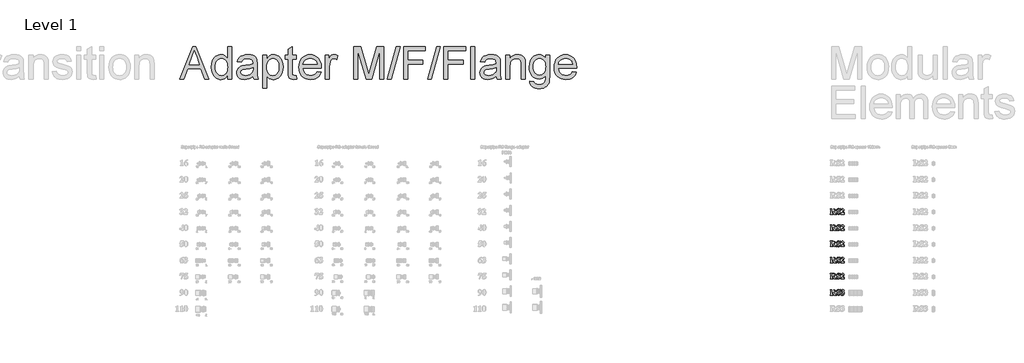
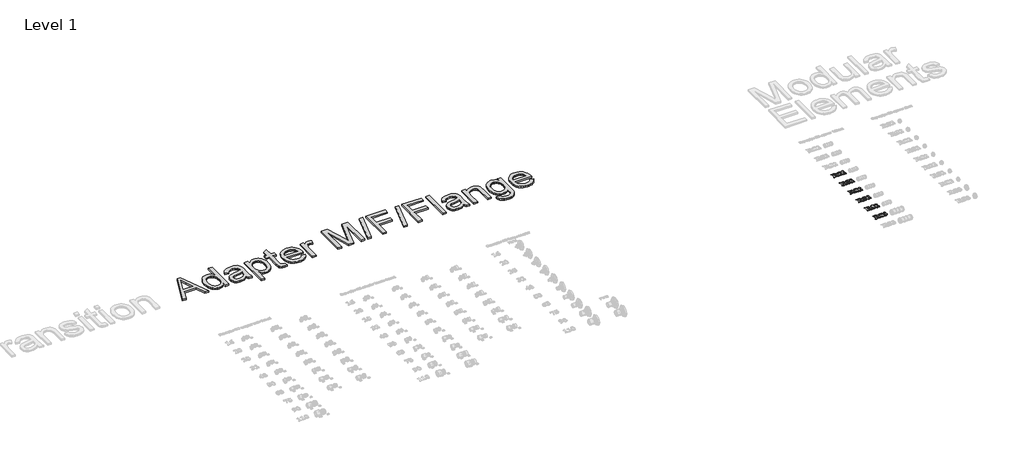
# One storey, part 49 of 57: 7 proxies.
"""IFC4 building model written with IfcOpenShell, lengths in millimetres."""

from ifc_helpers import new_model, si_unit, frame, origin, place, context, project, spatial, polyline, outline, extrude, element, save

model = new_model("IFC4")

# Units and contexts
model_context = context("Model", 3, world=origin())
ifc_project = project(units=[si_unit("LENGTHUNIT", "METRE", prefix="MILLI")], contexts=[model_context])

# Site, building, storey
site = spatial("IfcSite", under=ifc_project)
building = spatial("IfcBuilding", under=site)
storey = spatial("IfcBuildingStorey", under=building, Name="Level 1", Elevation=27.3876384)

# Proxies
placement = place(None, origin())
element("IfcBuildingElementProxy", 1, Name="100mm Arial", ObjectType="100mm Arial", at=placement, inside=storey, context=model_context, shape_type="SweptSolid", body=[
    extrude(outline(polyline([(40860.0811889, 17753.3090579), (40860.0811889, 17723.6453109), (40861.0899744, 17714.034584), (40864.6207237, 17710.8719051), (40874.0405993, 17709.6859006), (40874.0405993, 17706.196048), (40821.6928105, 17706.196048), (40821.6928105, 17709.6859006), (40831.1535827, 17710.8991696), (40834.6434353, 17714.0618485), (40835.6522208, 17723.6453109), (40835.6522208, 17791.6974363), (40834.6434353, 17801.3081631), (40831.112686, 17804.470842), (40821.6928105, 17805.6568466), (40821.6928105, 17809.1466992), (40869.2693164, 17809.1466992), (40896.4383641, 17806.6111032), (40910.4795678, 17797.2457566), (40915.9188303, 17781.2278785), (40914.003501, 17770.9968849), (40908.2575133, 17762.7153011), (40894.5707477, 17755.7628605), (40918.9997158, 17720.946128), (40925.1887512, 17712.3305545), (40931.6231669, 17709.6859006), (40931.6231669, 17706.196048), (40899.88732, 17706.196048), (40866.8427783, 17753.3090579), (40860.0811889, 17753.3090579)]), holes=[polyline([(40860.0811889, 17803.9119203), (40860.0811889, 17758.5438367), (40864.4162402, 17758.5438367), (40880.2432669, 17760.4932466), (40888.4907701, 17767.5138484), (40891.4898622, 17780.7643825), (40890.1130063, 17791.0533131), (40885.9824386, 17798.2545421), (40878.7846176, 17802.4975758), (40868.206002, 17803.9119203), (40860.0811889, 17803.9119203)])]), frame((0.0, 0.0, 27.3876384), z_axis=(0.0, 0.0, 1.0), x_axis=(1.0, 0.0, 0.0)), (0.0, 0.0, 1.0), 2.0),
    extrude(outline(polyline([(41006.6549975, 17810.8916255), (41006.6549975, 17775.9930996), (41003.1651449, 17775.9930996), (40999.1504512, 17788.0678533), (40991.7413306, 17797.5184013), (40982.26011, 17803.6222353), (40972.0291163, 17805.6568466), (40959.0784915, 17801.5535434), (40954.3072087, 17792.1064034), (40956.052135, 17786.0809548), (40963.7679809, 17779.0739851), (40981.7625333, 17770.2402958), (40997.875837, 17761.6792512), (41006.7367909, 17753.6089671), (41011.8897763, 17735.6962081), (41009.3609964, 17723.7816333), (41001.7746567, 17713.6665137), (40990.2894974, 17706.7549697), (40976.0642584, 17704.4511217), (40966.8352342, 17705.5553328), (40955.9158126, 17709.7404295), (40949.890364, 17711.4308268), (40945.6780029, 17709.713165), (40942.0927247, 17704.4511217), (40938.6028721, 17704.4511217), (40938.6028721, 17742.8395001), (40942.0927247, 17742.8395001), (40947.1673247, 17728.5904047), (40955.4659488, 17718.178784), (40965.7616955, 17711.8091214), (40976.8276637, 17709.6859006), (40990.9370286, 17714.2799643), (40996.1854397, 17724.9812701), (40994.072443, 17731.9882397), (40987.6516596, 17738.4226554), (40972.3835545, 17746.3838816), (40951.0354719, 17758.0121795), (40941.8200799, 17768.7134853), (40938.6028721, 17781.718639), (40940.9305765, 17792.948194), (40947.9136897, 17802.3714776), (40958.4411845, 17808.7615885), (40971.4020335, 17810.8916255), (40981.4080952, 17809.6919887), (40990.3644747, 17806.3520907), (40997.7667792, 17803.9119203), (41000.983987, 17805.1115571), (41003.1651449, 17810.8916255), (41006.6549975, 17810.8916255)])), frame((0.0, 0.0, 27.3876384), z_axis=(0.0, 0.0, 1.0), x_axis=(1.0, 0.0, 0.0)), (0.0, 0.0, 1.0), 2.0),
    extrude(outline(polyline([(41078.9876452, 17706.196048), (41017.1245552, 17706.196048), (41017.1245552, 17707.9409743), (41052.8955442, 17752.5456526), (41059.0027862, 17774.9297852), (41053.7816396, 17788.166687), (41041.0354983, 17793.4423626), (41030.0479156, 17790.5114317), (41021.8413091, 17781.718639), (41019.0330683, 17782.7274246), (41024.2917036, 17795.2281856), (41031.7246807, 17803.9937137), (41040.902584, 17809.1671476), (41051.3959982, 17810.8916255), (41065.9279624, 17807.3063472), (41076.2203011, 17797.4911369), (41079.9419017, 17785.80831), (41074.4344781, 17765.6598643), (41062.4312937, 17749.1171451), (41041.5262588, 17727.1351635), (41063.5014243, 17727.1351635), (41074.0391432, 17727.7349819), (41078.0470208, 17729.7798174), (41082.1775885, 17735.8597949), (41085.1766806, 17735.8597949), (41078.9876452, 17706.196048)])), frame((0.0, 0.0, 27.3876384), z_axis=(0.0, 0.0, 1.0), x_axis=(1.0, 0.0, 0.0)), (0.0, 0.0, 1.0), 2.0),
])
element("IfcBuildingElementProxy", 2, Name="100mm Arial", ObjectType="100mm Arial", at=placement, inside=storey, context=model_context, shape_type="SweptSolid", body=[
    extrude(outline(polyline([(40860.0811889, 17453.3090579), (40860.0811889, 17423.6453109), (40861.0899744, 17414.034584), (40864.6207237, 17410.8719051), (40874.0405993, 17409.6859006), (40874.0405993, 17406.196048), (40821.6928105, 17406.196048), (40821.6928105, 17409.6859006), (40831.1535827, 17410.8991696), (40834.6434353, 17414.0618485), (40835.6522208, 17423.6453109), (40835.6522208, 17491.6974363), (40834.6434353, 17501.3081631), (40831.112686, 17504.470842), (40821.6928105, 17505.6568466), (40821.6928105, 17509.1466992), (40869.2693164, 17509.1466992), (40896.4383641, 17506.6111032), (40910.4795678, 17497.2457566), (40915.9188303, 17481.2278785), (40914.003501, 17470.9968849), (40908.2575133, 17462.7153011), (40894.5707477, 17455.7628605), (40918.9997158, 17420.946128), (40925.1887512, 17412.3305545), (40931.6231669, 17409.6859006), (40931.6231669, 17406.196048), (40899.88732, 17406.196048), (40866.8427783, 17453.3090579), (40860.0811889, 17453.3090579)]), holes=[polyline([(40860.0811889, 17503.9119203), (40860.0811889, 17458.5438367), (40864.4162402, 17458.5438367), (40880.2432669, 17460.4932466), (40888.4907701, 17467.5138484), (40891.4898622, 17480.7643825), (40890.1130063, 17491.0533131), (40885.9824386, 17498.2545421), (40878.7846176, 17502.4975758), (40868.206002, 17503.9119203), (40860.0811889, 17503.9119203)])]), frame((0.0, 0.0, 27.3876384), z_axis=(0.0, 0.0, 1.0), x_axis=(1.0, 0.0, 0.0)), (0.0, 0.0, 1.0), 2.0),
    extrude(outline(polyline([(41006.6549975, 17510.8916255), (41006.6549975, 17475.9930996), (41003.1651449, 17475.9930996), (40999.1504512, 17488.0678533), (40991.7413306, 17497.5184013), (40982.26011, 17503.6222353), (40972.0291163, 17505.6568466), (40959.0784915, 17501.5535434), (40954.3072087, 17492.1064034), (40956.052135, 17486.0809548), (40963.7679809, 17479.0739851), (40981.7625333, 17470.2402958), (40997.875837, 17461.6792512), (41006.7367909, 17453.6089671), (41011.8897763, 17435.6962081), (41009.3609964, 17423.7816333), (41001.7746567, 17413.6665137), (40990.2894974, 17406.7549697), (40976.0642584, 17404.4511217), (40966.8352342, 17405.5553328), (40955.9158126, 17409.7404295), (40949.890364, 17411.4308268), (40945.6780029, 17409.713165), (40942.0927247, 17404.4511217), (40938.6028721, 17404.4511217), (40938.6028721, 17442.8395001), (40942.0927247, 17442.8395001), (40947.1673247, 17428.5904047), (40955.4659488, 17418.178784), (40965.7616955, 17411.8091214), (40976.8276637, 17409.6859006), (40990.9370286, 17414.2799643), (40996.1854397, 17424.9812701), (40994.072443, 17431.9882397), (40987.6516596, 17438.4226554), (40972.3835545, 17446.3838816), (40951.0354719, 17458.0121795), (40941.8200799, 17468.7134853), (40938.6028721, 17481.718639), (40940.9305765, 17492.948194), (40947.9136897, 17502.3714776), (40958.4411845, 17508.7615885), (40971.4020335, 17510.8916255), (40981.4080952, 17509.6919887), (40990.3644747, 17506.3520907), (40997.7667792, 17503.9119203), (41000.983987, 17505.1115571), (41003.1651449, 17510.8916255), (41006.6549975, 17510.8916255)])), frame((0.0, 0.0, 27.3876384), z_axis=(0.0, 0.0, 1.0), x_axis=(1.0, 0.0, 0.0)), (0.0, 0.0, 1.0), 2.0),
    extrude(outline(polyline([(41078.9876452, 17406.196048), (41017.1245552, 17406.196048), (41017.1245552, 17407.9409743), (41052.8955442, 17452.5456526), (41059.0027862, 17474.9297852), (41053.7816396, 17488.166687), (41041.0354983, 17493.4423626), (41030.0479156, 17490.5114317), (41021.8413091, 17481.718639), (41019.0330683, 17482.7274246), (41024.2917036, 17495.2281856), (41031.7246807, 17503.9937137), (41040.902584, 17509.1671476), (41051.3959982, 17510.8916255), (41065.9279624, 17507.3063472), (41076.2203011, 17497.4911369), (41079.9419017, 17485.80831), (41074.4344781, 17465.6598643), (41062.4312937, 17449.1171451), (41041.5262588, 17427.1351635), (41063.5014243, 17427.1351635), (41074.0391432, 17427.7349819), (41078.0470208, 17429.7798174), (41082.1775885, 17435.8597949), (41085.1766806, 17435.8597949), (41078.9876452, 17406.196048)])), frame((0.0, 0.0, 27.3876384), z_axis=(0.0, 0.0, 1.0), x_axis=(1.0, 0.0, 0.0)), (0.0, 0.0, 1.0), 2.0),
])
element("IfcBuildingElementProxy", 3, Name="100mm Arial", ObjectType="100mm Arial", at=placement, inside=storey, context=model_context, shape_type="SweptSolid", body=[
    extrude(outline(polyline([(40860.0811889, 17153.3090579), (40860.0811889, 17123.6453109), (40861.0899744, 17114.034584), (40864.6207237, 17110.8719051), (40874.0405993, 17109.6859006), (40874.0405993, 17106.196048), (40821.6928105, 17106.196048), (40821.6928105, 17109.6859006), (40831.1535827, 17110.8991696), (40834.6434353, 17114.0618485), (40835.6522208, 17123.6453109), (40835.6522208, 17191.6974363), (40834.6434353, 17201.3081631), (40831.112686, 17204.470842), (40821.6928105, 17205.6568466), (40821.6928105, 17209.1466992), (40869.2693164, 17209.1466992), (40896.4383641, 17206.6111032), (40910.4795678, 17197.2457566), (40915.9188303, 17181.2278785), (40914.003501, 17170.9968849), (40908.2575133, 17162.7153011), (40894.5707477, 17155.7628605), (40918.9997158, 17120.946128), (40925.1887512, 17112.3305545), (40931.6231669, 17109.6859006), (40931.6231669, 17106.196048), (40899.88732, 17106.196048), (40866.8427783, 17153.3090579), (40860.0811889, 17153.3090579)]), holes=[polyline([(40860.0811889, 17203.9119203), (40860.0811889, 17158.5438367), (40864.4162402, 17158.5438367), (40880.2432669, 17160.4932466), (40888.4907701, 17167.5138484), (40891.4898622, 17180.7643825), (40890.1130063, 17191.0533131), (40885.9824386, 17198.2545421), (40878.7846176, 17202.4975758), (40868.206002, 17203.9119203), (40860.0811889, 17203.9119203)])]), frame((0.0, 0.0, 27.3876384), z_axis=(0.0, 0.0, 1.0), x_axis=(1.0, 0.0, 0.0)), (0.0, 0.0, 1.0), 2.0),
    extrude(outline(polyline([(41006.6549975, 17210.8916255), (41006.6549975, 17175.9930996), (41003.1651449, 17175.9930996), (40999.1504512, 17188.0678533), (40991.7413306, 17197.5184013), (40982.26011, 17203.6222353), (40972.0291163, 17205.6568466), (40959.0784915, 17201.5535434), (40954.3072087, 17192.1064034), (40956.052135, 17186.0809548), (40963.7679809, 17179.0739851), (40981.7625333, 17170.2402958), (40997.875837, 17161.6792512), (41006.7367909, 17153.6089671), (41011.8897763, 17135.6962081), (41009.3609964, 17123.7816333), (41001.7746567, 17113.6665137), (40990.2894974, 17106.7549697), (40976.0642584, 17104.4511217), (40966.8352342, 17105.5553328), (40955.9158126, 17109.7404295), (40949.890364, 17111.4308268), (40945.6780029, 17109.713165), (40942.0927247, 17104.4511217), (40938.6028721, 17104.4511217), (40938.6028721, 17142.8395001), (40942.0927247, 17142.8395001), (40947.1673247, 17128.5904047), (40955.4659488, 17118.178784), (40965.7616955, 17111.8091214), (40976.8276637, 17109.6859006), (40990.9370286, 17114.2799643), (40996.1854397, 17124.9812701), (40994.072443, 17131.9882397), (40987.6516596, 17138.4226554), (40972.3835545, 17146.3838816), (40951.0354719, 17158.0121795), (40941.8200799, 17168.7134853), (40938.6028721, 17181.718639), (40940.9305765, 17192.948194), (40947.9136897, 17202.3714776), (40958.4411845, 17208.7615885), (40971.4020335, 17210.8916255), (40981.4080952, 17209.6919887), (40990.3644747, 17206.3520907), (40997.7667792, 17203.9119203), (41000.983987, 17205.1115571), (41003.1651449, 17210.8916255), (41006.6549975, 17210.8916255)])), frame((0.0, 0.0, 27.3876384), z_axis=(0.0, 0.0, 1.0), x_axis=(1.0, 0.0, 0.0)), (0.0, 0.0, 1.0), 2.0),
    extrude(outline(polyline([(41078.9876452, 17106.196048), (41017.1245552, 17106.196048), (41017.1245552, 17107.9409743), (41052.8955442, 17152.5456526), (41059.0027862, 17174.9297852), (41053.7816396, 17188.166687), (41041.0354983, 17193.4423626), (41030.0479156, 17190.5114317), (41021.8413091, 17181.718639), (41019.0330683, 17182.7274246), (41024.2917036, 17195.2281856), (41031.7246807, 17203.9937137), (41040.902584, 17209.1671476), (41051.3959982, 17210.8916255), (41065.9279624, 17207.3063472), (41076.2203011, 17197.4911369), (41079.9419017, 17185.80831), (41074.4344781, 17165.6598643), (41062.4312937, 17149.1171451), (41041.5262588, 17127.1351635), (41063.5014243, 17127.1351635), (41074.0391432, 17127.7349819), (41078.0470208, 17129.7798174), (41082.1775885, 17135.8597949), (41085.1766806, 17135.8597949), (41078.9876452, 17106.196048)])), frame((0.0, 0.0, 27.3876384), z_axis=(0.0, 0.0, 1.0), x_axis=(1.0, 0.0, 0.0)), (0.0, 0.0, 1.0), 2.0),
])
element("IfcBuildingElementProxy", 4, Name="100mm Arial", ObjectType="100mm Arial", at=placement, inside=storey, context=model_context, shape_type="SweptSolid", body=[
    extrude(outline(polyline([(40860.0811889, 16853.3090579), (40860.0811889, 16823.6453109), (40861.0899744, 16814.034584), (40864.6207237, 16810.8719051), (40874.0405993, 16809.6859006), (40874.0405993, 16806.196048), (40821.6928105, 16806.196048), (40821.6928105, 16809.6859006), (40831.1535827, 16810.8991696), (40834.6434353, 16814.0618485), (40835.6522208, 16823.6453109), (40835.6522208, 16891.6974363), (40834.6434353, 16901.3081631), (40831.112686, 16904.470842), (40821.6928105, 16905.6568466), (40821.6928105, 16909.1466992), (40869.2693164, 16909.1466992), (40896.4383641, 16906.6111032), (40910.4795678, 16897.2457566), (40915.9188303, 16881.2278785), (40914.003501, 16870.9968849), (40908.2575133, 16862.7153011), (40894.5707477, 16855.7628605), (40918.9997158, 16820.946128), (40925.1887512, 16812.3305545), (40931.6231669, 16809.6859006), (40931.6231669, 16806.196048), (40899.88732, 16806.196048), (40866.8427783, 16853.3090579), (40860.0811889, 16853.3090579)]), holes=[polyline([(40860.0811889, 16903.9119203), (40860.0811889, 16858.5438367), (40864.4162402, 16858.5438367), (40880.2432669, 16860.4932466), (40888.4907701, 16867.5138484), (40891.4898622, 16880.7643825), (40890.1130063, 16891.0533131), (40885.9824386, 16898.2545421), (40878.7846176, 16902.4975758), (40868.206002, 16903.9119203), (40860.0811889, 16903.9119203)])]), frame((0.0, 0.0, 27.3876384), z_axis=(0.0, 0.0, 1.0), x_axis=(1.0, 0.0, 0.0)), (0.0, 0.0, 1.0), 2.0),
    extrude(outline(polyline([(41006.6549975, 16910.8916255), (41006.6549975, 16875.9930996), (41003.1651449, 16875.9930996), (40999.1504512, 16888.0678533), (40991.7413306, 16897.5184013), (40982.26011, 16903.6222353), (40972.0291163, 16905.6568466), (40959.0784915, 16901.5535434), (40954.3072087, 16892.1064034), (40956.052135, 16886.0809548), (40963.7679809, 16879.0739851), (40981.7625333, 16870.2402958), (40997.875837, 16861.6792512), (41006.7367909, 16853.6089671), (41011.8897763, 16835.6962081), (41009.3609964, 16823.7816333), (41001.7746567, 16813.6665137), (40990.2894974, 16806.7549697), (40976.0642584, 16804.4511217), (40966.8352342, 16805.5553328), (40955.9158126, 16809.7404295), (40949.890364, 16811.4308268), (40945.6780029, 16809.713165), (40942.0927247, 16804.4511217), (40938.6028721, 16804.4511217), (40938.6028721, 16842.8395001), (40942.0927247, 16842.8395001), (40947.1673247, 16828.5904047), (40955.4659488, 16818.178784), (40965.7616955, 16811.8091214), (40976.8276637, 16809.6859006), (40990.9370286, 16814.2799643), (40996.1854397, 16824.9812701), (40994.072443, 16831.9882397), (40987.6516596, 16838.4226554), (40972.3835545, 16846.3838816), (40951.0354719, 16858.0121795), (40941.8200799, 16868.7134853), (40938.6028721, 16881.718639), (40940.9305765, 16892.948194), (40947.9136897, 16902.3714776), (40958.4411845, 16908.7615885), (40971.4020335, 16910.8916255), (40981.4080952, 16909.6919887), (40990.3644747, 16906.3520907), (40997.7667792, 16903.9119203), (41000.983987, 16905.1115571), (41003.1651449, 16910.8916255), (41006.6549975, 16910.8916255)])), frame((0.0, 0.0, 27.3876384), z_axis=(0.0, 0.0, 1.0), x_axis=(1.0, 0.0, 0.0)), (0.0, 0.0, 1.0), 2.0),
    extrude(outline(polyline([(41078.9876452, 16806.196048), (41017.1245552, 16806.196048), (41017.1245552, 16807.9409743), (41052.8955442, 16852.5456526), (41059.0027862, 16874.9297852), (41053.7816396, 16888.166687), (41041.0354983, 16893.4423626), (41030.0479156, 16890.5114317), (41021.8413091, 16881.718639), (41019.0330683, 16882.7274246), (41024.2917036, 16895.2281856), (41031.7246807, 16903.9937137), (41040.902584, 16909.1671476), (41051.3959982, 16910.8916255), (41065.9279624, 16907.3063472), (41076.2203011, 16897.4911369), (41079.9419017, 16885.80831), (41074.4344781, 16865.6598643), (41062.4312937, 16849.1171451), (41041.5262588, 16827.1351635), (41063.5014243, 16827.1351635), (41074.0391432, 16827.7349819), (41078.0470208, 16829.7798174), (41082.1775885, 16835.8597949), (41085.1766806, 16835.8597949), (41078.9876452, 16806.196048)])), frame((0.0, 0.0, 27.3876384), z_axis=(0.0, 0.0, 1.0), x_axis=(1.0, 0.0, 0.0)), (0.0, 0.0, 1.0), 2.0),
])
element("IfcBuildingElementProxy", 5, Name="100mm Arial", ObjectType="100mm Arial", at=placement, inside=storey, context=model_context, shape_type="SweptSolid", body=[
    extrude(outline(polyline([(40860.0811889, 16553.3090579), (40860.0811889, 16523.6453109), (40861.0899744, 16514.034584), (40864.6207237, 16510.8719051), (40874.0405993, 16509.6859006), (40874.0405993, 16506.196048), (40821.6928105, 16506.196048), (40821.6928105, 16509.6859006), (40831.1535827, 16510.8991696), (40834.6434353, 16514.0618485), (40835.6522208, 16523.6453109), (40835.6522208, 16591.6974363), (40834.6434353, 16601.3081631), (40831.112686, 16604.470842), (40821.6928105, 16605.6568466), (40821.6928105, 16609.1466992), (40869.2693164, 16609.1466992), (40896.4383641, 16606.6111032), (40910.4795678, 16597.2457566), (40915.9188303, 16581.2278785), (40914.003501, 16570.9968849), (40908.2575133, 16562.7153011), (40894.5707477, 16555.7628605), (40918.9997158, 16520.946128), (40925.1887512, 16512.3305545), (40931.6231669, 16509.6859006), (40931.6231669, 16506.196048), (40899.88732, 16506.196048), (40866.8427783, 16553.3090579), (40860.0811889, 16553.3090579)]), holes=[polyline([(40860.0811889, 16603.9119203), (40860.0811889, 16558.5438367), (40864.4162402, 16558.5438367), (40880.2432669, 16560.4932466), (40888.4907701, 16567.5138484), (40891.4898622, 16580.7643825), (40890.1130063, 16591.0533131), (40885.9824386, 16598.2545421), (40878.7846176, 16602.4975758), (40868.206002, 16603.9119203), (40860.0811889, 16603.9119203)])]), frame((0.0, 0.0, 27.3876384), z_axis=(0.0, 0.0, 1.0), x_axis=(1.0, 0.0, 0.0)), (0.0, 0.0, 1.0), 2.0),
    extrude(outline(polyline([(41006.6549975, 16610.8916255), (41006.6549975, 16575.9930996), (41003.1651449, 16575.9930996), (40999.1504512, 16588.0678533), (40991.7413306, 16597.5184013), (40982.26011, 16603.6222353), (40972.0291163, 16605.6568466), (40959.0784915, 16601.5535434), (40954.3072087, 16592.1064034), (40956.052135, 16586.0809548), (40963.7679809, 16579.0739851), (40981.7625333, 16570.2402958), (40997.875837, 16561.6792512), (41006.7367909, 16553.6089671), (41011.8897763, 16535.6962081), (41009.3609964, 16523.7816333), (41001.7746567, 16513.6665137), (40990.2894974, 16506.7549697), (40976.0642584, 16504.4511217), (40966.8352342, 16505.5553328), (40955.9158126, 16509.7404295), (40949.890364, 16511.4308268), (40945.6780029, 16509.713165), (40942.0927247, 16504.4511217), (40938.6028721, 16504.4511217), (40938.6028721, 16542.8395001), (40942.0927247, 16542.8395001), (40947.1673247, 16528.5904047), (40955.4659488, 16518.178784), (40965.7616955, 16511.8091214), (40976.8276637, 16509.6859006), (40990.9370286, 16514.2799643), (40996.1854397, 16524.9812701), (40994.072443, 16531.9882397), (40987.6516596, 16538.4226554), (40972.3835545, 16546.3838816), (40951.0354719, 16558.0121795), (40941.8200799, 16568.7134853), (40938.6028721, 16581.718639), (40940.9305765, 16592.948194), (40947.9136897, 16602.3714776), (40958.4411845, 16608.7615885), (40971.4020335, 16610.8916255), (40981.4080952, 16609.6919887), (40990.3644747, 16606.3520907), (40997.7667792, 16603.9119203), (41000.983987, 16605.1115571), (41003.1651449, 16610.8916255), (41006.6549975, 16610.8916255)])), frame((0.0, 0.0, 27.3876384), z_axis=(0.0, 0.0, 1.0), x_axis=(1.0, 0.0, 0.0)), (0.0, 0.0, 1.0), 2.0),
    extrude(outline(polyline([(41078.9876452, 16506.196048), (41017.1245552, 16506.196048), (41017.1245552, 16507.9409743), (41052.8955442, 16552.5456526), (41059.0027862, 16574.9297852), (41053.7816396, 16588.166687), (41041.0354983, 16593.4423626), (41030.0479156, 16590.5114317), (41021.8413091, 16581.718639), (41019.0330683, 16582.7274246), (41024.2917036, 16595.2281856), (41031.7246807, 16603.9937137), (41040.902584, 16609.1671476), (41051.3959982, 16610.8916255), (41065.9279624, 16607.3063472), (41076.2203011, 16597.4911369), (41079.9419017, 16585.80831), (41074.4344781, 16565.6598643), (41062.4312937, 16549.1171451), (41041.5262588, 16527.1351635), (41063.5014243, 16527.1351635), (41074.0391432, 16527.7349819), (41078.0470208, 16529.7798174), (41082.1775885, 16535.8597949), (41085.1766806, 16535.8597949), (41078.9876452, 16506.196048)])), frame((0.0, 0.0, 27.3876384), z_axis=(0.0, 0.0, 1.0), x_axis=(1.0, 0.0, 0.0)), (0.0, 0.0, 1.0), 2.0),
])
element("IfcBuildingElementProxy", 6, Name="100mm Arial", ObjectType="100mm Arial", at=placement, inside=storey, context=model_context, shape_type="SweptSolid", body=[
    extrude(outline(polyline([(40860.0811889, 16253.3090579), (40860.0811889, 16223.6453109), (40861.0899744, 16214.034584), (40864.6207237, 16210.8719051), (40874.0405993, 16209.6859006), (40874.0405993, 16206.196048), (40821.6928105, 16206.196048), (40821.6928105, 16209.6859006), (40831.1535827, 16210.8991696), (40834.6434353, 16214.0618485), (40835.6522208, 16223.6453109), (40835.6522208, 16291.6974363), (40834.6434353, 16301.3081631), (40831.112686, 16304.470842), (40821.6928105, 16305.6568466), (40821.6928105, 16309.1466992), (40869.2693164, 16309.1466992), (40896.4383641, 16306.6111032), (40910.4795678, 16297.2457566), (40915.9188303, 16281.2278785), (40914.003501, 16270.9968849), (40908.2575133, 16262.7153011), (40894.5707477, 16255.7628605), (40918.9997158, 16220.946128), (40925.1887512, 16212.3305545), (40931.6231669, 16209.6859006), (40931.6231669, 16206.196048), (40899.88732, 16206.196048), (40866.8427783, 16253.3090579), (40860.0811889, 16253.3090579)]), holes=[polyline([(40860.0811889, 16303.9119203), (40860.0811889, 16258.5438367), (40864.4162402, 16258.5438367), (40880.2432669, 16260.4932466), (40888.4907701, 16267.5138484), (40891.4898622, 16280.7643825), (40890.1130063, 16291.0533131), (40885.9824386, 16298.2545421), (40878.7846176, 16302.4975758), (40868.206002, 16303.9119203), (40860.0811889, 16303.9119203)])]), frame((0.0, 0.0, 27.3876384), z_axis=(0.0, 0.0, 1.0), x_axis=(1.0, 0.0, 0.0)), (0.0, 0.0, 1.0), 2.0),
    extrude(outline(polyline([(41006.6549975, 16310.8916255), (41006.6549975, 16275.9930996), (41003.1651449, 16275.9930996), (40999.1504512, 16288.0678533), (40991.7413306, 16297.5184013), (40982.26011, 16303.6222353), (40972.0291163, 16305.6568466), (40959.0784915, 16301.5535434), (40954.3072087, 16292.1064034), (40956.052135, 16286.0809548), (40963.7679809, 16279.0739851), (40981.7625333, 16270.2402958), (40997.875837, 16261.6792512), (41006.7367909, 16253.6089671), (41011.8897763, 16235.6962081), (41009.3609964, 16223.7816333), (41001.7746567, 16213.6665137), (40990.2894974, 16206.7549697), (40976.0642584, 16204.4511217), (40966.8352342, 16205.5553328), (40955.9158126, 16209.7404295), (40949.890364, 16211.4308268), (40945.6780029, 16209.713165), (40942.0927247, 16204.4511217), (40938.6028721, 16204.4511217), (40938.6028721, 16242.8395001), (40942.0927247, 16242.8395001), (40947.1673247, 16228.5904047), (40955.4659488, 16218.178784), (40965.7616955, 16211.8091214), (40976.8276637, 16209.6859006), (40990.9370286, 16214.2799643), (40996.1854397, 16224.9812701), (40994.072443, 16231.9882397), (40987.6516596, 16238.4226554), (40972.3835545, 16246.3838816), (40951.0354719, 16258.0121795), (40941.8200799, 16268.7134853), (40938.6028721, 16281.718639), (40940.9305765, 16292.948194), (40947.9136897, 16302.3714776), (40958.4411845, 16308.7615885), (40971.4020335, 16310.8916255), (40981.4080952, 16309.6919887), (40990.3644747, 16306.3520907), (40997.7667792, 16303.9119203), (41000.983987, 16305.1115571), (41003.1651449, 16310.8916255), (41006.6549975, 16310.8916255)])), frame((0.0, 0.0, 27.3876384), z_axis=(0.0, 0.0, 1.0), x_axis=(1.0, 0.0, 0.0)), (0.0, 0.0, 1.0), 2.0),
    extrude(outline(polyline([(41036.3187444, 16262.0336893), (41036.3187444, 16263.7786156), (41048.7513443, 16268.5907951), (41054.7358961, 16275.379649), (41057.2578599, 16284.6359377), (41052.5547383, 16295.773475), (41040.844647, 16300.4220677), (41030.7840563, 16297.9887135), (41022.3593341, 16290.6886508), (41020.6144078, 16291.6974363), (41035.0236819, 16306.0794459), (41054.613206, 16310.8916255), (41064.6635725, 16309.4397923), (41072.7849775, 16305.0842927), (41078.1526707, 16298.7861993), (41079.9419017, 16291.506585), (41075.9340241, 16281.7322713), (41063.3651019, 16273.4575036), (41079.5874636, 16262.1700117), (41083.7793763, 16254.6109365), (41085.1766806, 16245.3478316), (41082.1844047, 16229.585558), (41073.2075768, 16216.3793288), (41059.2072698, 16207.4331734), (41041.1445562, 16204.4511217), (41029.5435228, 16205.7325519), (41021.5686644, 16209.5768427), (41017.1245552, 16218.8740281), (41019.7010479, 16225.9491589), (41025.6583354, 16228.8800898), (41030.5114116, 16227.7895108), (41039.3723654, 16221.0551859), (41053.6589494, 16214.9206794), (41063.5832177, 16219.3784208), (41067.7274177, 16230.679545), (41065.7268869, 16240.6890148), (41059.7252948, 16249.8873665), (41049.8725957, 16257.3203435), (41036.3187444, 16262.0336893)])), frame((0.0, 0.0, 27.3876384), z_axis=(0.0, 0.0, 1.0), x_axis=(1.0, 0.0, 0.0)), (0.0, 0.0, 1.0), 2.0),
])
element("IfcBuildingElementProxy", 7, Name="600mm Arial", ObjectType="600mm Arial", at=placement, inside=storey, context=model_context, shape_type="SweptSolid", body=[
    extrude(outline(polyline([(28776.5509061, 20213.7679008), (29017.145731, 20816.5057617), (29081.3043509, 20816.5057617), (29321.8991758, 20213.7679008), (29242.289512, 20213.7679008), (29173.2748497, 20402.1234823), (28925.0280794, 20402.1234823), (28856.1605699, 20213.7679008), (28776.5509061, 20213.7679008)]), holes=[polyline([(28952.6928054, 20477.4657149), (29145.7572765, 20477.4657149), (29091.457894, 20625.6485826), (29049.2250409, 20741.1635291), (29011.7010774, 20638.5980288), (28952.6928054, 20477.4657149)])]), frame((0.0, 0.0, 27.3876384), z_axis=(0.0, 0.0, 1.0), x_axis=(1.0, 0.0, 0.0)), (0.0, 0.0, 1.0), 30.0),
    extrude(outline(polyline([(29666.0895704, 20213.7679008), (29666.0895704, 20284.8427023), (29643.5476012, 20249.6271983), (29616.2415601, 20224.4732669), (29584.1714472, 20209.380908), (29547.3372624, 20204.3501217), (29522.4684395, 20206.1711376), (29498.6296862, 20211.6341852), (29475.8210025, 20220.7392646), (29454.0423884, 20233.4863757), (29433.9744256, 20249.4938411), (29416.2976957, 20268.379983), (29401.0121988, 20290.1448015), (29388.1179349, 20314.7882967), (29377.8816184, 20341.8414189), (29370.5699637, 20370.8351186), (29364.72064, 20434.6442507), (29370.1101112, 20497.6624365), (29386.2785249, 20554.5737811), (29398.4002367, 20579.9300477), (29413.207487, 20602.1409231), (29430.7002758, 20621.2064075), (29450.8786033, 20637.1265009), (29473.0296979, 20649.6804739), (29496.4407884, 20658.6475976), (29521.1118747, 20664.0278718), (29547.0429568, 20665.8212965), (29583.9047327, 20660.6893426), (29616.4990775, 20645.2934811), (29644.1270153, 20621.6938512), (29666.0895704, 20591.9505918), (29666.0895704, 20816.5057617), (29741.4318031, 20816.5057617), (29741.4318031, 20213.7679008), (29666.0895704, 20213.7679008)]), holes=[polyline([(29440.0628726, 20434.9385563), (29442.1873911, 20398.4032757), (29448.5609467, 20366.7884167), (29459.1835393, 20340.0939794), (29474.055169, 20318.3199638), (29491.8146723, 20301.4203847), (29511.1008859, 20289.3492567), (29531.9138098, 20282.1065799), (29554.2534439, 20279.6923543), (29576.6988441, 20281.9962153), (29597.3876078, 20288.9077983), (29616.319735, 20300.4271033), (29633.4952257, 20316.5541303), (29647.7552515, 20337.4176379), (29657.9409843, 20363.1463849), (29664.0524239, 20393.7403714), (29666.0895704, 20429.1995972), (29664.0156357, 20468.075527), (29657.7938315, 20501.4148328), (29647.4241577, 20529.2175146), (29632.9066145, 20551.4835724), (29615.3540448, 20568.5440999), (29595.8792917, 20580.730191), (29574.4823551, 20588.0418456), (29551.1632352, 20590.4790639), (29528.3821426, 20588.1384147), (29507.5692187, 20581.1164671), (29488.7244635, 20569.4132211), (29471.847877, 20553.0286768), (29457.9419376, 20531.6041491), (29448.0091237, 20504.7809531), (29442.0494354, 20472.5590888), (29440.0628726, 20434.9385563)])]), frame((0.0, 0.0, 27.3876384), z_axis=(0.0, 0.0, 1.0), x_axis=(1.0, 0.0, 0.0)), (0.0, 0.0, 1.0), 30.0),
    extrude(outline(polyline([(30136.9785243, 20270.2745753), (30100.981271, 20239.4092759), (30063.91716, 20219.2125543), (30024.9400626, 20208.0657299), (29983.2038503, 20204.3501217), (29949.6576109, 20206.5850048), (29920.2408468, 20213.2896542), (29894.9535582, 20224.4640698), (29873.7957449, 20240.1082517), (29857.0893038, 20259.2289184), (29845.1561316, 20280.8327885), (29837.9962283, 20304.9198622), (29835.6095938, 20331.4901393), (29839.2148374, 20362.7233207), (29850.030568, 20391.0870225), (29866.7140165, 20415.3672342), (29887.9224135, 20434.3499451), (29912.8464187, 20448.6973429), (29940.6766916, 20459.0716152), (30005.8653812, 20470.4023806), (30082.899871, 20482.3217573), (30136.5370659, 20496.3012731), (30136.9785243, 20513.0766921), (30131.7913881, 20546.7011064), (30125.307468, 20559.153912), (30116.2299797, 20568.7004498), (30100.5398126, 20578.2285934), (30081.428343, 20585.0344103), (30032.941496, 20590.4790639), (29988.0598926, 20586.8554262), (29956.7163466, 20575.9845133), (29935.3424027, 20555.8797622), (29920.3696055, 20524.5546103), (29845.0273729, 20533.9723894), (29858.1055778, 20575.1751729), (29877.6217177, 20607.5487884), (29905.3968083, 20632.3072467), (29943.2518656, 20650.6645583), (29989.5498147, 20662.0321119), (30042.6535807, 20665.8212965), (30093.5868429, 20662.4735703), (30133.9618919, 20652.4303919), (30164.404127, 20637.328836), (30185.5389476, 20618.8059775), (30199.5552516, 20595.9053233), (30208.6419369, 20567.6703802), (30212.3207569, 20501.7459266), (30212.3207569, 20408.0095943), (30216.1467296, 20277.1171804), (30221.8121124, 20244.7619589), (30231.156315, 20213.7679008), (30155.8140824, 20213.7679008), (30143.747553, 20239.9610989), (30136.9785243, 20270.2745753)]), holes=[polyline([(30136.9785243, 20420.9590405), (30086.3579617, 20408.4142645), (30015.4303131, 20397.8560512), (29950.6095055, 20385.642369), (29933.742116, 20377.2914477), (29921.2525223, 20365.7767412), (29913.5270004, 20351.9811664), (29910.9518264, 20336.78764), (29916.5620269, 20314.3836265), (29933.3926281, 20296.0263149), (29961.0757483, 20283.7758445), (29999.2435053, 20279.6923543), (30039.7105247, 20284.1989088), (30075.4686547, 20297.7185721), (30104.4577559, 20317.6393821), (30124.6176892, 20341.3493767), (30133.5572217, 20365.7767412), (30136.5370659, 20399.6218848), (30136.9785243, 20420.9590405)])]), frame((0.0, 0.0, 27.3876384), z_axis=(0.0, 0.0, 1.0), x_axis=(1.0, 0.0, 0.0)), (0.0, 0.0, 1.0), 30.0),
    extrude(outline(polyline([(30315.9163267, 20044.2478774), (30315.9163267, 20656.4035174), (30391.2585593, 20656.4035174), (30391.2585593, 20582.5328128), (30415.8330766, 20618.9715244), (30443.3506499, 20644.9991756), (30475.4299598, 20660.6157662), (30513.6896873, 20665.8212965), (30539.9656588, 20664.0002806), (30564.6413437, 20658.537233), (30587.7167418, 20649.4321536), (30609.1918533, 20636.6850425), (30628.5976285, 20620.6269934), (30645.465018, 20601.5891001), (30659.7940217, 20579.5713627), (30671.5846397, 20554.5737811), (30687.3667773, 20499.0603881), (30692.6274898, 20438.4702235), (30686.6861956, 20374.035692), (30679.2595778, 20344.3706076), (30668.8623129, 20316.4069775), (30655.6369552, 20290.875967), (30639.7260589, 20268.5087417), (30621.129624, 20249.3053015), (30599.8476506, 20233.2656465), (30576.9240038, 20220.6151044), (30553.4025487, 20211.5790029), (30529.2832854, 20206.157342), (30504.5662139, 20204.3501217), (30469.930124, 20209.18777), (30439.0096423, 20223.7007147), (30412.5405328, 20245.6080875), (30391.2585593, 20272.62902), (30391.2585593, 20044.2478774), (30315.9163267, 20044.2478774)]), holes=[polyline([(30391.2585593, 20431.5540419), (30393.2957059, 20395.244089), (30399.4071455, 20364.0109076), (30409.5928783, 20337.8544978), (30423.8529041, 20316.7748595), (30441.0191977, 20300.5512635), (30459.9237337, 20288.9629806), (30480.5665122, 20282.0100109), (30502.9475331, 20279.6923543), (30525.6504507, 20282.0927844), (30546.6703082, 20289.2940744), (30566.0071056, 20301.2962245), (30583.6608428, 20318.0992346), (30598.3715241, 20339.9422281), (30608.8791536, 20367.0643282), (30615.1837313, 20399.4655349), (30617.2852572, 20437.1458483), (30615.234315, 20473.1431015), (30609.0814887, 20504.3211006), (30598.8267781, 20530.6798456), (30584.4701832, 20552.2193364), (30567.2625029, 20568.9579671), (30548.4545359, 20580.914132), (30528.0462822, 20588.0878309), (30506.0377418, 20590.4790639), (30484.0981793, 20587.9360796), (30463.4554009, 20580.3071267), (30444.1094065, 20567.5922052), (30426.0601961, 20549.7913152), (30410.83448, 20527.1435799), (30399.9589685, 20499.8881226), (30393.4336616, 20468.0249432), (30391.2585593, 20431.5540419)])]), frame((0.0, 0.0, 27.3876384), z_axis=(0.0, 0.0, 1.0), x_axis=(1.0, 0.0, 0.0)), (0.0, 0.0, 1.0), 30.0),
    extrude(outline(polyline([(30937.4897458, 20276.6021456), (30946.9075249, 20211.5606088), (30890.5480032, 20204.3501217), (30854.3852031, 20207.4771187), (30827.4194528, 20216.8581096), (30808.3631655, 20231.315872), (30795.928754, 20249.6731835), (30789.0861489, 20281.2006705), (30786.8052805, 20335.1689592), (30786.8052805, 20581.0612848), (30730.2986061, 20581.0612848), (30730.2986061, 20656.4035174), (30786.8052805, 20656.4035174), (30786.8052805, 20763.9722128), (30862.1475132, 20808.265205), (30862.1475132, 20656.4035174), (30937.4897458, 20656.4035174), (30937.4897458, 20581.0612848), (30862.1475132, 20581.0612848), (30862.1475132, 20337.3762512), (30866.1206387, 20298.5279125), (30878.9965085, 20284.7691259), (30889.8674215, 20280.9615472), (30904.6746718, 20279.6923543), (30937.4897458, 20276.6021456)])), frame((0.0, 0.0, 27.3876384), z_axis=(0.0, 0.0, 1.0), x_axis=(1.0, 0.0, 0.0)), (0.0, 0.0, 1.0), 30.0),
    extrude(outline(polyline([(31322.7357711, 20345.6168079), (31396.6064758, 20336.1990288), (31385.2803088, 20306.6121193), (31369.9902134, 20280.5384829), (31350.7361895, 20257.9781196), (31327.5182371, 20238.9310293), (31300.5754794, 20223.8018822), (31270.1470399, 20212.9953486), (31236.2329185, 20206.5114285), (31198.8331151, 20204.3501217), (31152.0845106, 20208.0795255), (31110.4310717, 20219.2677366), (31073.8727984, 20237.9147553), (31042.4096908, 20264.0205813), (31017.1086066, 20296.8586479), (30999.0364036, 20335.7023881), (30988.1930818, 20380.5518018), (30984.5786412, 20431.4068892), (30988.22987, 20483.9864233), (30999.1835564, 20530.3303577), (31017.4397004, 20570.4386922), (31042.998302, 20604.3114269), (31074.3786362, 20631.2219948), (31110.0999779, 20650.4438291), (31150.1623272, 20661.9769296), (31194.565684, 20665.8212965), (31237.5388996, 20661.9861267), (31276.4010338, 20650.4806173), (31311.1520868, 20631.3047683), (31341.7920585, 20604.4585797), (31366.8034356, 20570.6594214), (31384.668705, 20530.6246633), (31395.3878666, 20484.3543053), (31398.9609205, 20431.8483475), (31398.5194621, 20411.5412614), (31059.9208738, 20411.5412614), (31064.2848739, 20381.4761054), (31072.9622905, 20355.1449516), (31085.9531235, 20332.5478), (31103.2573728, 20313.6846507), (31123.9185454, 20298.813021), (31146.9801479, 20288.1904284), (31172.4421805, 20281.8168729), (31200.3046431, 20279.6923543), (31240.4037806, 20283.6286917), (31274.1753478, 20295.4377037), (31301.6193446, 20315.8551545), (31322.7357711, 20345.6168079)]), holes=[polyline([(31059.9208738, 20486.883494), (31323.6186879, 20486.883494), (31313.4283566, 20526.6883259), (31304.6635681, 20542.3417048), (31293.4523643, 20555.1623923), (31272.9061549, 20570.6134361), (31249.5272541, 20581.649896), (31223.3156619, 20588.2717719), (31194.2713784, 20590.4790639), (31167.7792762, 20588.7178288), (31143.485269, 20583.4341237), (31121.3893566, 20574.6279484), (31101.4915392, 20562.299303), (31084.7942952, 20547.0184047), (31072.3001029, 20529.3554704), (31064.0089624, 20509.3105002), (31059.9208738, 20486.883494)])]), frame((0.0, 0.0, 27.3876384), z_axis=(0.0, 0.0, 1.0), x_axis=(1.0, 0.0, 0.0)), (0.0, 0.0, 1.0), 30.0),
    extrude(outline(polyline([(31474.3031531, 20213.7679008), (31474.3031531, 20656.4035174), (31540.2276067, 20656.4035174), (31540.2276067, 20590.9205223), (31564.5813948, 20628.8859442), (31587.0221965, 20651.2531695), (31609.5365746, 20662.1792647), (31634.1110918, 20665.8212965), (31671.6350553, 20660.008761), (31709.74763, 20642.5711544), (31684.5845016, 20575.0280201), (31658.0969979, 20586.6163029), (31631.6094943, 20590.4790639), (31609.1135103, 20586.7634557), (31589.0087592, 20575.6166313), (31572.7667691, 20557.8847191), (31561.859068, 20534.4138478), (31552.6988063, 20492.3281476), (31549.6453857, 20446.4164746), (31549.6453857, 20213.7679008), (31474.3031531, 20213.7679008)])), frame((0.0, 0.0, 27.3876384), z_axis=(0.0, 0.0, 1.0), x_axis=(1.0, 0.0, 0.0)), (0.0, 0.0, 1.0), 30.0),
    extrude(outline(polyline([(32001.6987814, 20213.7679008), (32001.6987814, 20816.5057617), (32131.3403965, 20816.5057617), (32254.6544413, 20391.6756337), (32279.5232642, 20302.9424964), (32306.4522262, 20399.0332736), (32427.7061318, 20816.5057617), (32557.3477469, 20816.5057617), (32557.3477469, 20213.7679008), (32482.0055143, 20213.7679008), (32482.0055143, 20741.1635291), (32330.5852851, 20213.7679008), (32228.4612432, 20213.7679008), (32077.041014, 20741.1635291), (32077.041014, 20213.7679008), (32001.6987814, 20213.7679008)])), frame((0.0, 0.0, 27.3876384), z_axis=(0.0, 0.0, 1.0), x_axis=(1.0, 0.0, 0.0)), (0.0, 0.0, 1.0), 30.0),
    extrude(outline(polyline([(32623.2722005, 20213.7679008), (32792.7922238, 20816.5057617), (32860.7768166, 20816.5057617), (32691.2567932, 20213.7679008), (32623.2722005, 20213.7679008)])), frame((0.0, 0.0, 27.3876384), z_axis=(0.0, 0.0, 1.0), x_axis=(1.0, 0.0, 0.0)), (0.0, 0.0, 1.0), 30.0),
    extrude(outline(polyline([(32924.6411309, 20213.7679008), (32924.6411309, 20816.5057617), (33329.6056312, 20816.5057617), (33329.6056312, 20741.1635291), (32999.9833635, 20741.1635291), (32999.9833635, 20562.2257266), (33282.5167358, 20562.2257266), (33282.5167358, 20486.883494), (32999.9833635, 20486.883494), (32999.9833635, 20213.7679008), (32924.6411309, 20213.7679008)])), frame((0.0, 0.0, 27.3876384), z_axis=(0.0, 0.0, 1.0), x_axis=(1.0, 0.0, 0.0)), (0.0, 0.0, 1.0), 30.0),
    extrude(outline(polyline([(33367.2767475, 20213.7679008), (33536.7967709, 20816.5057617), (33604.7813636, 20816.5057617), (33435.2613402, 20213.7679008), (33367.2767475, 20213.7679008)])), frame((0.0, 0.0, 27.3876384), z_axis=(0.0, 0.0, 1.0), x_axis=(1.0, 0.0, 0.0)), (0.0, 0.0, 1.0), 30.0),
    extrude(outline(polyline([(33668.645678, 20213.7679008), (33668.645678, 20816.5057617), (34073.6101783, 20816.5057617), (34073.6101783, 20741.1635291), (33743.9879106, 20741.1635291), (33743.9879106, 20562.2257266), (34026.5212829, 20562.2257266), (34026.5212829, 20486.883494), (33743.9879106, 20486.883494), (33743.9879106, 20213.7679008), (33668.645678, 20213.7679008)])), frame((0.0, 0.0, 27.3876384), z_axis=(0.0, 0.0, 1.0), x_axis=(1.0, 0.0, 0.0)), (0.0, 0.0, 1.0), 30.0),
    extrude(outline(polyline([(34167.787969, 20213.7679008), (34167.787969, 20816.5057617), (34243.1302016, 20816.5057617), (34243.1302016, 20213.7679008), (34167.787969, 20213.7679008)])), frame((0.0, 0.0, 27.3876384), z_axis=(0.0, 0.0, 1.0), x_axis=(1.0, 0.0, 0.0)), (0.0, 0.0, 1.0), 30.0),
    extrude(outline(polyline([(34638.6769228, 20270.2745753), (34602.6796696, 20239.4092759), (34565.6155586, 20219.2125543), (34526.6384612, 20208.0657299), (34484.9022489, 20204.3501217), (34451.3560094, 20206.5850048), (34421.9392454, 20213.2896542), (34396.6519567, 20224.4640698), (34375.4941435, 20240.1082517), (34358.7877024, 20259.2289184), (34346.8545302, 20280.8327885), (34339.6946268, 20304.9198622), (34337.3079924, 20331.4901393), (34340.913236, 20362.7233207), (34351.7289666, 20391.0870225), (34368.4124151, 20415.3672342), (34389.6208121, 20434.3499451), (34414.5448173, 20448.6973429), (34442.3750902, 20459.0716152), (34507.5637798, 20470.4023806), (34584.5982696, 20482.3217573), (34638.2354645, 20496.3012731), (34638.6769228, 20513.0766921), (34633.4897867, 20546.7011064), (34627.0058666, 20559.153912), (34617.9283783, 20568.7004498), (34602.2382112, 20578.2285934), (34583.1267416, 20585.0344103), (34534.6398946, 20590.4790639), (34489.7582912, 20586.8554262), (34458.4147452, 20575.9845133), (34437.0408013, 20555.8797622), (34422.0680041, 20524.5546103), (34346.7257715, 20533.9723894), (34359.8039764, 20575.1751729), (34379.3201162, 20607.5487884), (34407.0952069, 20632.3072467), (34444.9502642, 20650.6645583), (34491.2482133, 20662.0321119), (34544.3519793, 20665.8212965), (34595.2852415, 20662.4735703), (34635.6602905, 20652.4303919), (34666.1025256, 20637.328836), (34687.2373462, 20618.8059775), (34701.2536502, 20595.9053233), (34710.3403355, 20567.6703802), (34714.0191555, 20501.7459266), (34714.0191555, 20408.0095943), (34717.8451282, 20277.1171804), (34723.5105109, 20244.7619589), (34732.8547136, 20213.7679008), (34657.512481, 20213.7679008), (34645.4459516, 20239.9610989), (34638.6769228, 20270.2745753)]), holes=[polyline([(34638.6769228, 20420.9590405), (34588.0563603, 20408.4142645), (34517.1287116, 20397.8560512), (34452.3079041, 20385.642369), (34435.4405146, 20377.2914477), (34422.9509209, 20365.7767412), (34415.225399, 20351.9811664), (34412.650225, 20336.78764), (34418.2604254, 20314.3836265), (34435.0910267, 20296.0263149), (34462.7741469, 20283.7758445), (34500.9419039, 20279.6923543), (34541.4089233, 20284.1989088), (34577.1670533, 20297.7185721), (34606.1561545, 20317.6393821), (34626.3160878, 20341.3493767), (34635.2556203, 20365.7767412), (34638.2354645, 20399.6218848), (34638.6769228, 20420.9590405)])]), frame((0.0, 0.0, 27.3876384), z_axis=(0.0, 0.0, 1.0), x_axis=(1.0, 0.0, 0.0)), (0.0, 0.0, 1.0), 30.0),
    extrude(outline(polyline([(34817.6147253, 20213.7679008), (34817.6147253, 20656.4035174), (34892.9569579, 20656.4035174), (34892.9569579, 20594.5993422), (34919.1317619, 20625.7589472), (34950.5672784, 20648.0158079), (34987.2635074, 20661.3699243), (35029.2204489, 20665.8212965), (35066.3581363, 20662.234447), (35100.3688268, 20651.4738987), (35128.7325286, 20634.8824207), (35148.9292502, 20613.8027824), (35162.6328545, 20588.290166), (35171.5172047, 20558.3997539), (35175.4903302, 20485.5591188), (35175.4903302, 20213.7679008), (35100.1480976, 20213.7679008), (35100.1480976, 20475.4055758), (35097.9775938, 20514.3642791), (35091.4660825, 20542.0657933), (35079.4547354, 20561.9130269), (35060.7847241, 20577.3088884), (35036.8540003, 20587.18652), (35009.0605156, 20590.4790639), (34986.182854, 20588.6304568), (34964.9330703, 20583.0846358), (34945.3111644, 20573.8416006), (34927.3171363, 20560.9013515), (34912.2845582, 20542.7923602), (34901.5470025, 20518.043099), (34895.1044691, 20486.6535678), (34892.9569579, 20448.6237665), (34892.9569579, 20213.7679008), (34817.6147253, 20213.7679008)])), frame((0.0, 0.0, 27.3876384), z_axis=(0.0, 0.0, 1.0), x_axis=(1.0, 0.0, 0.0)), (0.0, 0.0, 1.0), 30.0),
    extrude(outline(polyline([(35260.2503419, 20176.0967845), (35335.5925745, 20166.6790054), (35343.9067076, 20143.1345577), (35360.019939, 20126.9477499), (35391.6945788, 20114.3661857), (35433.1548796, 20110.172331), (35477.3742955, 20114.9180087), (35495.2349663, 20120.8501059), (35510.2629458, 20129.1550419), (35533.0716295, 20151.9637256), (35547.0511453, 20182.4243548), (35551.1346355, 20214.8347586), (35552.2014933, 20270.2745753), (35527.1303353, 20245.5529052), (35499.1529096, 20227.8945694), (35468.2692161, 20217.299568), (35434.4792548, 20213.7679008), (35393.1707053, 20217.8789821), (35356.8009715, 20230.212226), (35325.3700536, 20250.7676325), (35298.8779514, 20279.5452015), (35277.8580939, 20314.0709268), (35262.84391, 20351.8708018), (35253.8353996, 20392.9448266), (35250.8325628, 20437.2930011), (35256.2220341, 20498.122289), (35272.3904477, 20554.0587463), (35284.3742037, 20579.2816556), (35298.7675868, 20601.4603414), (35315.5705969, 20620.5948037), (35334.7832341, 20636.6850425), (35356.0973972, 20649.4321536), (35379.204985, 20658.537233), (35404.1059976, 20664.0002806), (35430.8004349, 20665.8212965), (35466.034333, 20661.7010181), (35498.0124754, 20649.3401831), (35526.7348622, 20628.7387914), (35552.2014933, 20599.8968429), (35552.2014933, 20656.4035174), (35627.5437259, 20656.4035174), (35627.5437259, 20274.2477008), (35622.393378, 20186.0112043), (35615.955443, 20153.1915318), (35606.9423342, 20127.9042431), (35595.1379206, 20107.509785), (35580.3260718, 20089.3686041), (35562.5067877, 20073.4807005), (35541.6800682, 20059.846074), (35518.0574456, 20048.9015847), (35491.850452, 20041.0840923), (35463.0590873, 20036.3935968), (35431.6833517, 20034.8300984), (35394.770992, 20037.0327918), (35361.5834375, 20043.6408721), (35332.1206882, 20054.6543394), (35306.3827441, 20070.0731935), (35285.5928128, 20089.9158286), (35270.9741021, 20114.2006388), (35262.5266117, 20142.9276241), (35260.2503419, 20176.0967845)]), holes=[polyline([(35326.1747954, 20442.443349), (35328.1843508, 20405.1906985), (35334.213017, 20373.3367162), (35344.260794, 20346.8814022), (35358.3276818, 20325.8247565), (35375.4295961, 20309.7621089), (35394.5824524, 20298.2887892), (35415.7862509, 20291.4047974), (35439.0409916, 20289.1101334), (35462.0658059, 20291.3910018), (35483.1684369, 20298.2336069), (35502.3488844, 20309.6379487), (35519.6071485, 20325.6040273), (35533.8671743, 20346.4537394), (35544.0529071, 20372.5089817), (35550.1643467, 20403.7697543), (35552.2014933, 20440.236057), (35550.1045659, 20475.1802481), (35543.8137838, 20505.5535053), (35533.3291469, 20531.3558287), (35518.6506553, 20552.5872184), (35501.0199107, 20569.1649008), (35481.6785148, 20581.0061025), (35460.6264676, 20588.1108235), (35437.8637692, 20590.4790639), (35415.4827483, 20588.1476117), (35394.8399698, 20581.1532553), (35375.9354338, 20569.4959946), (35358.7691402, 20553.1758296), (35344.5091144, 20532.2663367), (35334.3233816, 20506.8410923), (35328.211942, 20476.9000964), (35326.1747954, 20442.443349)])]), frame((0.0, 0.0, 27.3876384), z_axis=(0.0, 0.0, 1.0), x_axis=(1.0, 0.0, 0.0)), (0.0, 0.0, 1.0), 30.0),
    extrude(outline(polyline([(36050.4608675, 20345.6168079), (36124.3315722, 20336.1990288), (36113.0054052, 20306.6121193), (36097.7153098, 20280.5384829), (36078.4612859, 20257.9781196), (36055.2433335, 20238.9310293), (36028.3005759, 20223.8018822), (35997.8721363, 20212.9953486), (35963.9580149, 20206.5114285), (35926.5582116, 20204.3501217), (35879.809607, 20208.0795255), (35838.1561681, 20219.2677366), (35801.5978949, 20237.9147553), (35770.1347872, 20264.0205813), (35744.833703, 20296.8586479), (35726.7615, 20335.7023881), (35715.9181782, 20380.5518018), (35712.3037376, 20431.4068892), (35715.9549664, 20483.9864233), (35726.9086528, 20530.3303577), (35745.1647968, 20570.4386922), (35770.7233984, 20604.3114269), (35802.1037326, 20631.2219948), (35837.8250743, 20650.4438291), (35877.8874236, 20661.9769296), (35922.2907804, 20665.8212965), (35965.263996, 20661.9861267), (36004.1261302, 20650.4806173), (36038.8771832, 20631.3047683), (36069.5171549, 20604.4585797), (36094.528532, 20570.6594214), (36112.3938014, 20530.6246633), (36123.1129631, 20484.3543053), (36126.6860169, 20431.8483475), (36126.2445585, 20411.5412614), (35787.6459702, 20411.5412614), (35792.0099704, 20381.4761054), (35800.6873869, 20355.1449516), (35813.6782199, 20332.5478), (35830.9824692, 20313.6846507), (35851.6436418, 20298.813021), (35874.7052443, 20288.1904284), (35900.1672769, 20281.8168729), (35928.0297395, 20279.6923543), (35968.128877, 20283.6286917), (36001.9004442, 20295.4377037), (36029.344441, 20315.8551545), (36050.4608675, 20345.6168079)]), holes=[polyline([(35787.6459702, 20486.883494), (36051.3437843, 20486.883494), (36041.1534531, 20526.6883259), (36032.3886645, 20542.3417048), (36021.1774607, 20555.1623923), (36000.6312513, 20570.6134361), (35977.2523505, 20581.649896), (35951.0407583, 20588.2717719), (35921.9964748, 20590.4790639), (35895.5043726, 20588.7178288), (35871.2103654, 20583.4341237), (35849.1144531, 20574.6279484), (35829.2166356, 20562.299303), (35812.5193916, 20547.0184047), (35800.0251993, 20529.3554704), (35791.7340589, 20509.3105002), (35787.6459702, 20486.883494)])]), frame((0.0, 0.0, 27.3876384), z_axis=(0.0, 0.0, 1.0), x_axis=(1.0, 0.0, 0.0)), (0.0, 0.0, 1.0), 30.0),
])

save(model, "model.ifc")
